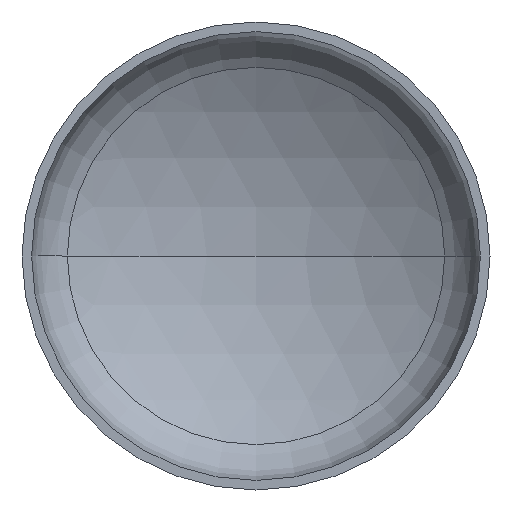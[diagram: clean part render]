
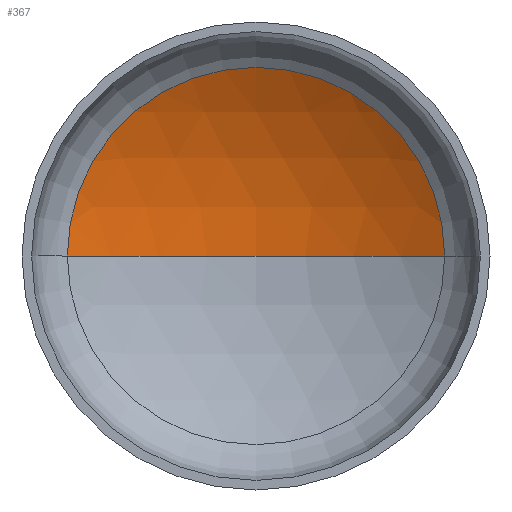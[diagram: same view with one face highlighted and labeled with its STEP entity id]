
A CAD part, front view. The second image highlights one B-rep face of the part: STEP entity #367.
In plain terms, the highlighted spherical face has radius 3040 mm.
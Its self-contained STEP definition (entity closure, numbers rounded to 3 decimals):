
#1 = AXIS2_PLACEMENT_3D ( 'NONE', #220, #178, #147 ) ;
#8 = ORIENTED_EDGE ( 'NONE', *, *, #384, .F. ) ;
#12 = AXIS2_PLACEMENT_3D ( 'NONE', #152, #393, #258 ) ;
#15 = AXIS2_PLACEMENT_3D ( 'NONE', #155, #326, #330 ) ;
#27 = EDGE_LOOP ( 'NONE', ( #8, #151, #118 ) ) ;
#43 = VERTEX_POINT ( 'NONE', #292 ) ;
#100 = VERTEX_POINT ( 'NONE', #294 ) ;
#111 = AXIS2_PLACEMENT_3D ( 'NONE', #331, #193, #359 ) ;
#118 = ORIENTED_EDGE ( 'NONE', *, *, #344, .T. ) ;
#144 = VERTEX_POINT ( 'NONE', #214 ) ;
#147 = DIRECTION ( 'NONE',  ( -1., 0., 0. ) ) ;
#151 = ORIENTED_EDGE ( 'NONE', *, *, #348, .T. ) ;
#152 = CARTESIAN_POINT ( 'NONE',  ( 0., -2000.579, 0. ) ) ;
#155 = CARTESIAN_POINT ( 'NONE',  ( 0., 625.311, 0. ) ) ;
#178 = DIRECTION ( 'NONE',  ( 0., 0., -1. ) ) ;
#181 = CIRCLE ( 'NONE', #12, 3040. ) ;
#193 = DIRECTION ( 'NONE',  ( 0., 0., 1. ) ) ;
#214 = CARTESIAN_POINT ( 'NONE',  ( 0., 1039.421, 0. ) ) ;
#220 = CARTESIAN_POINT ( 'NONE',  ( 0., -2000.579, 0. ) ) ;
#230 = CIRCLE ( 'NONE', #111, 3040. ) ;
#248 = CIRCLE ( 'NONE', #15, 1531.764 ) ;
#258 = DIRECTION ( 'NONE',  ( -1., 0., 0. ) ) ;
#292 = CARTESIAN_POINT ( 'NONE',  ( -1531.764, 625.311, 0. ) ) ;
#294 = CARTESIAN_POINT ( 'NONE',  ( 1531.764, 625.311, 0. ) ) ;
#326 = DIRECTION ( 'NONE',  ( 0., -1., 0. ) ) ;
#330 = DIRECTION ( 'NONE',  ( 1., 0., 0. ) ) ;
#331 = CARTESIAN_POINT ( 'NONE',  ( 0., -2000.579, 0. ) ) ;
#344 = EDGE_CURVE ( 'NONE', #100, #43, #248, .T. ) ;
#348 = EDGE_CURVE ( 'NONE', #144, #100, #181, .T. ) ;
#358 = SPHERICAL_SURFACE ( 'NONE', #1, 3040. ) ;
#359 = DIRECTION ( 'NONE',  ( 1., 0., 0. ) ) ;
#367 = ADVANCED_FACE ( 'NONE', ( #410 ), #358, .F. ) ;
#384 = EDGE_CURVE ( 'NONE', #144, #43, #230, .T. ) ;
#393 = DIRECTION ( 'NONE',  ( 0., 0., -1. ) ) ;
#410 = FACE_OUTER_BOUND ( 'NONE', #27, .T. ) ;
